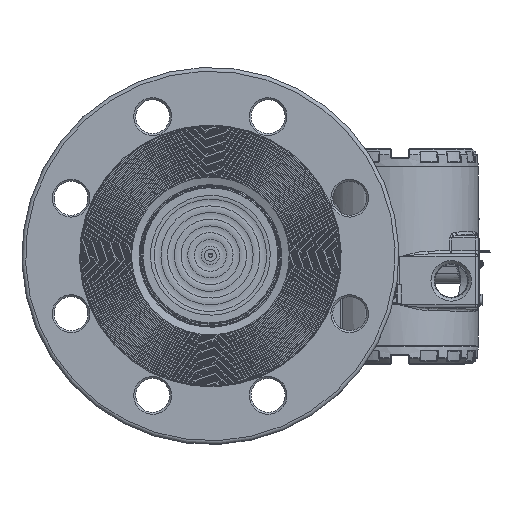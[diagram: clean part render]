
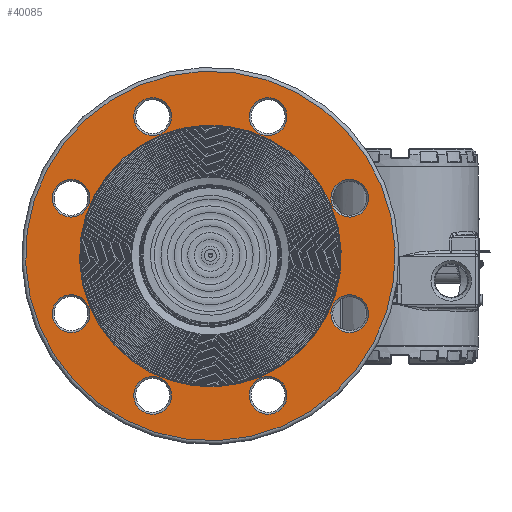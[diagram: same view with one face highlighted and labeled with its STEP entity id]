
A CAD part, top view. The second image highlights one B-rep face of the part: STEP entity #40085.
In plain terms, the highlighted planar face has unit normal (0, 0, 1).
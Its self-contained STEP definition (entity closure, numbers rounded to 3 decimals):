
#760=FACE_BOUND('',#6808,.T.);
#761=FACE_BOUND('',#6809,.T.);
#762=FACE_BOUND('',#6810,.T.);
#763=FACE_BOUND('',#6811,.T.);
#764=FACE_BOUND('',#6812,.T.);
#765=FACE_BOUND('',#6813,.T.);
#766=FACE_BOUND('',#6814,.T.);
#767=FACE_BOUND('',#6815,.T.);
#768=FACE_BOUND('',#6816,.T.);
#2843=PLANE('',#44485);
#4077=FACE_OUTER_BOUND('',#6807,.T.);
#6807=EDGE_LOOP('',(#30485));
#6808=EDGE_LOOP('',(#30486));
#6809=EDGE_LOOP('',(#30487));
#6810=EDGE_LOOP('',(#30488));
#6811=EDGE_LOOP('',(#30489));
#6812=EDGE_LOOP('',(#30490));
#6813=EDGE_LOOP('',(#30491));
#6814=EDGE_LOOP('',(#30492));
#6815=EDGE_LOOP('',(#30493));
#6816=EDGE_LOOP('',(#30494,#30495));
#12791=CIRCLE('',#44480,69.4);
#12795=CIRCLE('',#44484,69.4);
#12796=CIRCLE('',#44486,98.);
#12797=CIRCLE('',#44487,10.);
#12798=CIRCLE('',#44488,10.);
#12799=CIRCLE('',#44489,10.);
#12800=CIRCLE('',#44490,10.);
#12801=CIRCLE('',#44491,10.);
#12802=CIRCLE('',#44492,10.);
#12803=CIRCLE('',#44493,10.);
#12804=CIRCLE('',#44494,10.);
#17478=VERTEX_POINT('',#71305);
#17479=VERTEX_POINT('',#71306);
#17482=VERTEX_POINT('',#71315);
#17483=VERTEX_POINT('',#71317);
#17484=VERTEX_POINT('',#71319);
#17485=VERTEX_POINT('',#71321);
#17486=VERTEX_POINT('',#71323);
#17487=VERTEX_POINT('',#71325);
#17488=VERTEX_POINT('',#71327);
#17489=VERTEX_POINT('',#71329);
#17490=VERTEX_POINT('',#71331);
#22083=EDGE_CURVE('',#17478,#17479,#12791,.T.);
#22087=EDGE_CURVE('',#17479,#17478,#12795,.T.);
#22088=EDGE_CURVE('',#17482,#17482,#12796,.T.);
#22089=EDGE_CURVE('',#17483,#17483,#12797,.T.);
#22090=EDGE_CURVE('',#17484,#17484,#12798,.T.);
#22091=EDGE_CURVE('',#17485,#17485,#12799,.T.);
#22092=EDGE_CURVE('',#17486,#17486,#12800,.T.);
#22093=EDGE_CURVE('',#17487,#17487,#12801,.T.);
#22094=EDGE_CURVE('',#17488,#17488,#12802,.T.);
#22095=EDGE_CURVE('',#17489,#17489,#12803,.T.);
#22096=EDGE_CURVE('',#17490,#17490,#12804,.T.);
#30485=ORIENTED_EDGE('',*,*,#22088,.F.);
#30486=ORIENTED_EDGE('',*,*,#22089,.F.);
#30487=ORIENTED_EDGE('',*,*,#22090,.F.);
#30488=ORIENTED_EDGE('',*,*,#22091,.F.);
#30489=ORIENTED_EDGE('',*,*,#22092,.F.);
#30490=ORIENTED_EDGE('',*,*,#22093,.F.);
#30491=ORIENTED_EDGE('',*,*,#22094,.F.);
#30492=ORIENTED_EDGE('',*,*,#22095,.F.);
#30493=ORIENTED_EDGE('',*,*,#22096,.F.);
#30494=ORIENTED_EDGE('',*,*,#22083,.F.);
#30495=ORIENTED_EDGE('',*,*,#22087,.F.);
#40085=ADVANCED_FACE('',(#4077,#760,#761,#762,#763,#764,#765,#766,#767,
#768),#2843,.T.);
#44480=AXIS2_PLACEMENT_3D('',#71307,#52631,#52632);
#44484=AXIS2_PLACEMENT_3D('',#71313,#52639,#52640);
#44485=AXIS2_PLACEMENT_3D('',#71314,#52641,#52642);
#44486=AXIS2_PLACEMENT_3D('',#71316,#52643,#52644);
#44487=AXIS2_PLACEMENT_3D('',#71318,#52645,#52646);
#44488=AXIS2_PLACEMENT_3D('',#71320,#52647,#52648);
#44489=AXIS2_PLACEMENT_3D('',#71322,#52649,#52650);
#44490=AXIS2_PLACEMENT_3D('',#71324,#52651,#52652);
#44491=AXIS2_PLACEMENT_3D('',#71326,#52653,#52654);
#44492=AXIS2_PLACEMENT_3D('',#71328,#52655,#52656);
#44493=AXIS2_PLACEMENT_3D('',#71330,#52657,#52658);
#44494=AXIS2_PLACEMENT_3D('',#71332,#52659,#52660);
#52631=DIRECTION('center_axis',(0.,0.,1.));
#52632=DIRECTION('ref_axis',(-1.,0.,0.));
#52639=DIRECTION('center_axis',(0.,0.,1.));
#52640=DIRECTION('ref_axis',(-1.,0.,0.));
#52641=DIRECTION('center_axis',(0.,0.,1.));
#52642=DIRECTION('ref_axis',(1.,0.,0.));
#52643=DIRECTION('center_axis',(0.,0.,-1.));
#52644=DIRECTION('ref_axis',(-1.,0.,0.));
#52645=DIRECTION('center_axis',(0.,0.,1.));
#52646=DIRECTION('ref_axis',(0.,1.,0.));
#52647=DIRECTION('center_axis',(0.,0.,1.));
#52648=DIRECTION('ref_axis',(1.,0.,0.));
#52649=DIRECTION('center_axis',(0.,0.,1.));
#52650=DIRECTION('ref_axis',(-1.,0.,0.));
#52651=DIRECTION('center_axis',(0.,0.,1.));
#52652=DIRECTION('ref_axis',(0.707,-0.707,0.));
#52653=DIRECTION('center_axis',(0.,0.,1.));
#52654=DIRECTION('ref_axis',(0.,-1.,0.));
#52655=DIRECTION('center_axis',(0.,0.,1.));
#52656=DIRECTION('ref_axis',(-0.707,-0.707,0.));
#52657=DIRECTION('center_axis',(0.,0.,1.));
#52658=DIRECTION('ref_axis',(0.707,0.707,0.));
#52659=DIRECTION('center_axis',(0.,0.,1.));
#52660=DIRECTION('ref_axis',(-0.707,0.707,0.));
#71305=CARTESIAN_POINT('',(69.4,0.,21.));
#71306=CARTESIAN_POINT('',(-69.4,0.,21.));
#71307=CARTESIAN_POINT('Origin',(0.,0.,21.));
#71313=CARTESIAN_POINT('Origin',(0.,0.,21.));
#71314=CARTESIAN_POINT('Origin',(0.,0.,
21.));
#71315=CARTESIAN_POINT('',(98.,0.,21.));
#71316=CARTESIAN_POINT('Origin',(0.,0.,21.));
#71317=CARTESIAN_POINT('',(80.,-10.,21.));
#71318=CARTESIAN_POINT('Origin',(80.,0.,21.));
#71319=CARTESIAN_POINT('',(-10.,-80.,21.));
#71320=CARTESIAN_POINT('Origin',(0.,-80.,21.));
#71321=CARTESIAN_POINT('',(10.,80.,21.));
#71322=CARTESIAN_POINT('Origin',(0.,80.,21.));
#71323=CARTESIAN_POINT('',(-63.64,-49.497,21.));
#71324=CARTESIAN_POINT('Origin',(-56.569,-56.569,21.));
#71325=CARTESIAN_POINT('',(-80.,10.,21.));
#71326=CARTESIAN_POINT('Origin',(-80.,0.,21.));
#71327=CARTESIAN_POINT('',(-49.497,63.64,21.));
#71328=CARTESIAN_POINT('Origin',(-56.569,56.569,21.));
#71329=CARTESIAN_POINT('',(49.497,-63.64,21.));
#71330=CARTESIAN_POINT('Origin',(56.569,-56.569,21.));
#71331=CARTESIAN_POINT('',(63.64,49.497,21.));
#71332=CARTESIAN_POINT('Origin',(56.569,56.569,21.));
